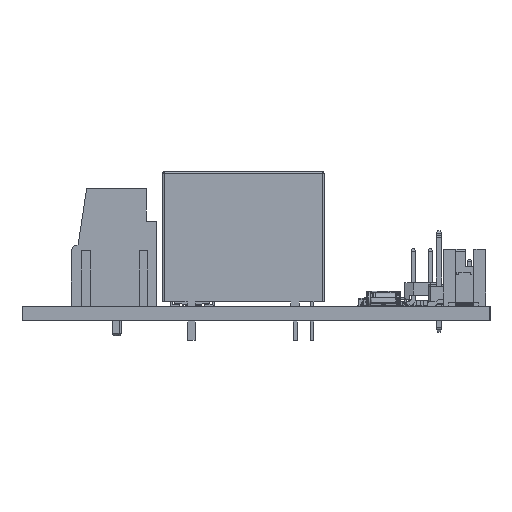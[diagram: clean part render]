
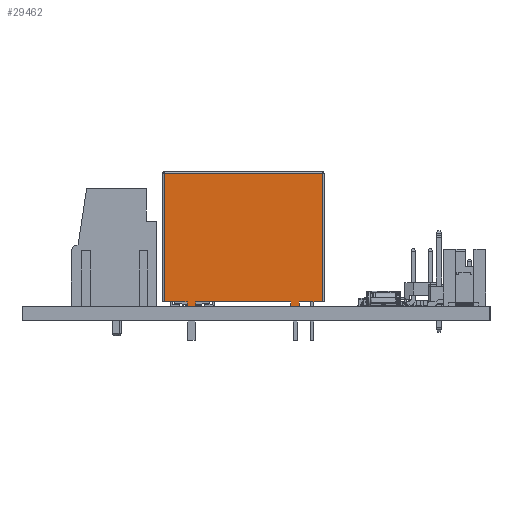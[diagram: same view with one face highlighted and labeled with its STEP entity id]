
A CAD part, left-side view. The second image highlights one B-rep face of the part: STEP entity #29462.
In plain terms, the highlighted planar face has unit normal (-1, 0, 0) as drawn and (0, 0, -1) by its records, which use the part's own axes.
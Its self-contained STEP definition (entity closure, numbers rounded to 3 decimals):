
#29113 = VERTEX_POINT('',#29114);
#29114 = CARTESIAN_POINT('',(6.6,0.5,-7.75));
#29120 = EDGE_CURVE('',#29113,#29121,#29123,.T.);
#29121 = VERTEX_POINT('',#29122);
#29122 = CARTESIAN_POINT('',(9.3,0.5,-7.75));
#29123 = LINE('',#29124,#29125);
#29124 = CARTESIAN_POINT('',(9.3,0.5,-7.75));
#29125 = VECTOR('',#29126,1.);
#29126 = DIRECTION('',(1.,0.,0.));
#29160 = EDGE_CURVE('',#29161,#29163,#29165,.T.);
#29161 = VERTEX_POINT('',#29162);
#29162 = CARTESIAN_POINT('',(-5.6,0.5,-7.75));
#29163 = VERTEX_POINT('',#29164);
#29164 = CARTESIAN_POINT('',(5.6,0.5,-7.75));
#29165 = LINE('',#29166,#29167);
#29166 = CARTESIAN_POINT('',(9.3,0.5,-7.75));
#29167 = VECTOR('',#29168,1.);
#29168 = DIRECTION('',(1.,0.,0.));
#29244 = VERTEX_POINT('',#29245);
#29245 = CARTESIAN_POINT('',(-9.3,0.5,-7.75));
#29252 = EDGE_CURVE('',#29244,#29253,#29255,.T.);
#29253 = VERTEX_POINT('',#29254);
#29254 = CARTESIAN_POINT('',(-6.6,0.5,-7.75));
#29255 = LINE('',#29256,#29257);
#29256 = CARTESIAN_POINT('',(9.3,0.5,-7.75));
#29257 = VECTOR('',#29258,1.);
#29258 = DIRECTION('',(1.,0.,0.));
#29441 = EDGE_CURVE('',#29442,#29121,#29444,.T.);
#29442 = VERTEX_POINT('',#29443);
#29443 = CARTESIAN_POINT('',(9.3,15.6,-7.75));
#29444 = LINE('',#29445,#29446);
#29445 = CARTESIAN_POINT('',(9.3,15.8,-7.75));
#29446 = VECTOR('',#29447,1.);
#29447 = DIRECTION('',(0.,-1.,0.));
#29462 = ADVANCED_FACE('',(#29463),#29527,.F.);
#29463 = FACE_BOUND('',#29464,.T.);
#29464 = EDGE_LOOP('',(#29465,#29473,#29479,#29480,#29481,#29489,#29497,
    #29503,#29504,#29512,#29520,#29526));
#29465 = ORIENTED_EDGE('',*,*,#29466,.F.);
#29466 = EDGE_CURVE('',#29467,#29244,#29469,.T.);
#29467 = VERTEX_POINT('',#29468);
#29468 = CARTESIAN_POINT('',(-9.3,15.6,-7.75));
#29469 = LINE('',#29470,#29471);
#29470 = CARTESIAN_POINT('',(-9.3,15.8,-7.75));
#29471 = VECTOR('',#29472,1.);
#29472 = DIRECTION('',(0.,-1.,0.));
#29473 = ORIENTED_EDGE('',*,*,#29474,.T.);
#29474 = EDGE_CURVE('',#29467,#29442,#29475,.T.);
#29475 = LINE('',#29476,#29477);
#29476 = CARTESIAN_POINT('',(9.3,15.6,-7.75));
#29477 = VECTOR('',#29478,1.);
#29478 = DIRECTION('',(1.,0.,0.));
#29479 = ORIENTED_EDGE('',*,*,#29441,.T.);
#29480 = ORIENTED_EDGE('',*,*,#29120,.F.);
#29481 = ORIENTED_EDGE('',*,*,#29482,.F.);
#29482 = EDGE_CURVE('',#29483,#29113,#29485,.T.);
#29483 = VERTEX_POINT('',#29484);
#29484 = CARTESIAN_POINT('',(6.6,0.,-7.75));
#29485 = LINE('',#29486,#29487);
#29486 = CARTESIAN_POINT('',(6.6,0.,-7.75));
#29487 = VECTOR('',#29488,1.);
#29488 = DIRECTION('',(0.,1.,0.));
#29489 = ORIENTED_EDGE('',*,*,#29490,.F.);
#29490 = EDGE_CURVE('',#29491,#29483,#29493,.T.);
#29491 = VERTEX_POINT('',#29492);
#29492 = CARTESIAN_POINT('',(5.6,0.,-7.75));
#29493 = LINE('',#29494,#29495);
#29494 = CARTESIAN_POINT('',(5.6,0.,-7.75));
#29495 = VECTOR('',#29496,1.);
#29496 = DIRECTION('',(1.,0.,0.));
#29497 = ORIENTED_EDGE('',*,*,#29498,.T.);
#29498 = EDGE_CURVE('',#29491,#29163,#29499,.T.);
#29499 = LINE('',#29500,#29501);
#29500 = CARTESIAN_POINT('',(5.6,0.,-7.75));
#29501 = VECTOR('',#29502,1.);
#29502 = DIRECTION('',(0.,1.,0.));
#29503 = ORIENTED_EDGE('',*,*,#29160,.F.);
#29504 = ORIENTED_EDGE('',*,*,#29505,.F.);
#29505 = EDGE_CURVE('',#29506,#29161,#29508,.T.);
#29506 = VERTEX_POINT('',#29507);
#29507 = CARTESIAN_POINT('',(-5.6,0.,-7.75));
#29508 = LINE('',#29509,#29510);
#29509 = CARTESIAN_POINT('',(-5.6,0.,-7.75));
#29510 = VECTOR('',#29511,1.);
#29511 = DIRECTION('',(0.,1.,0.));
#29512 = ORIENTED_EDGE('',*,*,#29513,.F.);
#29513 = EDGE_CURVE('',#29514,#29506,#29516,.T.);
#29514 = VERTEX_POINT('',#29515);
#29515 = CARTESIAN_POINT('',(-6.6,0.,-7.75));
#29516 = LINE('',#29517,#29518);
#29517 = CARTESIAN_POINT('',(-6.6,0.,-7.75));
#29518 = VECTOR('',#29519,1.);
#29519 = DIRECTION('',(1.,0.,0.));
#29520 = ORIENTED_EDGE('',*,*,#29521,.T.);
#29521 = EDGE_CURVE('',#29514,#29253,#29522,.T.);
#29522 = LINE('',#29523,#29524);
#29523 = CARTESIAN_POINT('',(-6.6,0.,-7.75));
#29524 = VECTOR('',#29525,1.);
#29525 = DIRECTION('',(0.,1.,0.));
#29526 = ORIENTED_EDGE('',*,*,#29252,.F.);
#29527 = PLANE('',#29528);
#29528 = AXIS2_PLACEMENT_3D('',#29529,#29530,#29531);
#29529 = CARTESIAN_POINT('',(-9.3,15.8,-7.75));
#29530 = DIRECTION('',(0.,0.,1.));
#29531 = DIRECTION('',(1.,0.,0.));
